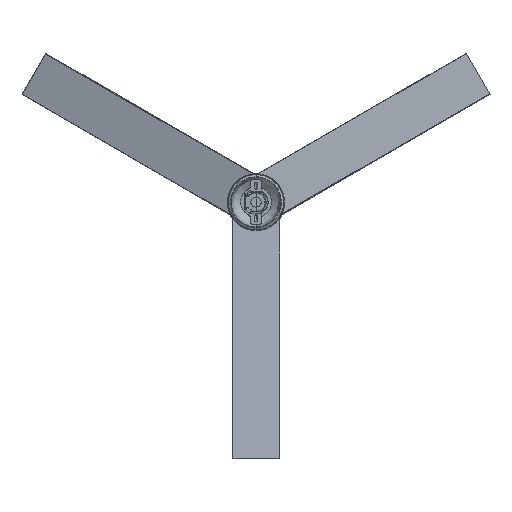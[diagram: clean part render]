
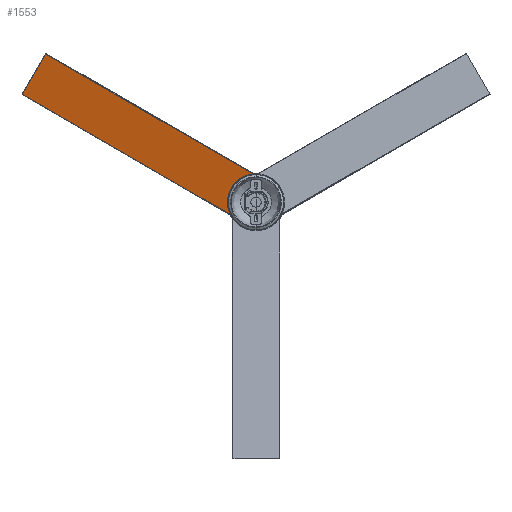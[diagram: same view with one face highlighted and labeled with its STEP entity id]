
A CAD part, top view. The second image highlights one B-rep face of the part: STEP entity #1553.
In plain terms, the highlighted planar face has unit normal (-0.113, -0.195, 0.974).
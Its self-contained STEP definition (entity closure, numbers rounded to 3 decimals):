
#1314=FACE_BOUND('',#2087,.T.);
#1315=FACE_BOUND('',#2088,.T.);
#1316=FACE_BOUND('',#2089,.T.);
#1553=ADVANCED_FACE('',(#1809,#1314,#1315,#1316),#5593,.T.);
#1809=FACE_OUTER_BOUND('',#2086,.T.);
#2086=EDGE_LOOP('',(#3305,#3306,#3307,#3308,#3309,#3310));
#2087=EDGE_LOOP('',(#3311,#3312));
#2088=EDGE_LOOP('',(#3313,#3314));
#2089=EDGE_LOOP('',(#3315,#3316));
#3305=ORIENTED_EDGE('',*,*,#4072,.T.);
#3306=ORIENTED_EDGE('',*,*,#4073,.T.);
#3307=ORIENTED_EDGE('',*,*,#4074,.T.);
#3308=ORIENTED_EDGE('',*,*,#4053,.T.);
#3309=ORIENTED_EDGE('',*,*,#4075,.T.);
#3310=ORIENTED_EDGE('',*,*,#4076,.T.);
#3311=ORIENTED_EDGE('',*,*,#4069,.T.);
#3312=ORIENTED_EDGE('',*,*,#4070,.T.);
#3313=ORIENTED_EDGE('',*,*,#4063,.T.);
#3314=ORIENTED_EDGE('',*,*,#4064,.T.);
#3315=ORIENTED_EDGE('',*,*,#4057,.T.);
#3316=ORIENTED_EDGE('',*,*,#4058,.T.);
#4053=EDGE_CURVE('',#5383,#5385,#4342,.T.);
#4057=EDGE_CURVE('',#5387,#5389,#4344,.T.);
#4058=EDGE_CURVE('',#5389,#5387,#4345,.T.);
#4063=EDGE_CURVE('',#5391,#5393,#4348,.T.);
#4064=EDGE_CURVE('',#5393,#5391,#4349,.T.);
#4069=EDGE_CURVE('',#5395,#5397,#4352,.T.);
#4070=EDGE_CURVE('',#5397,#5395,#4353,.T.);
#4072=EDGE_CURVE('',#5398,#5399,#4981,.T.);
#4073=EDGE_CURVE('',#5399,#5400,#4982,.T.);
#4074=EDGE_CURVE('',#5400,#5383,#4983,.T.);
#4075=EDGE_CURVE('',#5385,#5401,#4984,.T.);
#4076=EDGE_CURVE('',#5401,#5398,#4985,.T.);
#4342=TRIMMED_CURVE($,#4544,(#12520),(#12521),.T.,.CARTESIAN.);
#4344=TRIMMED_CURVE($,#4546,(#12530),(#12531),.T.,.CARTESIAN.);
#4345=TRIMMED_CURVE($,#4547,(#12533),(#12534),.T.,.CARTESIAN.);
#4348=TRIMMED_CURVE($,#4550,(#12546),(#12547),.T.,.CARTESIAN.);
#4349=TRIMMED_CURVE($,#4551,(#12549),(#12550),.T.,.CARTESIAN.);
#4352=TRIMMED_CURVE($,#4554,(#12562),(#12563),.T.,.CARTESIAN.);
#4353=TRIMMED_CURVE($,#4555,(#12565),(#12566),.T.,.CARTESIAN.);
#4544=CIRCLE('',#6157,53.78);
#4546=CIRCLE('',#6159,2.5);
#4547=CIRCLE('',#6160,2.5);
#4550=CIRCLE('',#6163,2.5);
#4551=CIRCLE('',#6164,2.5);
#4554=CIRCLE('',#6167,2.5);
#4555=CIRCLE('',#6168,2.5);
#4981=B_SPLINE_CURVE_WITH_KNOTS('',1,(#12570,#12571),.UNSPECIFIED.,.F.,
 .F.,(2,2),(0.,123.),.UNSPECIFIED.);
#4982=B_SPLINE_CURVE_WITH_KNOTS('',1,(#12572,#12573),.UNSPECIFIED.,.F.,
 .F.,(2,2),(0.,630.),.UNSPECIFIED.);
#4983=B_SPLINE_CURVE_WITH_KNOTS('',1,(#12574,#12575),.UNSPECIFIED.,.F.,
 .F.,(2,2),(0.,16.315),.UNSPECIFIED.);
#4984=B_SPLINE_CURVE_WITH_KNOTS('',1,(#12576,#12577),.UNSPECIFIED.,.F.,
 .F.,(2,2),(0.,14.435),.UNSPECIFIED.);
#4985=B_SPLINE_CURVE_WITH_KNOTS('',1,(#12578,#12579),.UNSPECIFIED.,.F.,
 .F.,(2,2),(0.,630.),.UNSPECIFIED.);
#5383=VERTEX_POINT('',#12481);
#5385=VERTEX_POINT('',#12483);
#5387=VERTEX_POINT('',#12485);
#5389=VERTEX_POINT('',#12487);
#5391=VERTEX_POINT('',#12489);
#5393=VERTEX_POINT('',#12491);
#5395=VERTEX_POINT('',#12493);
#5397=VERTEX_POINT('',#12495);
#5398=VERTEX_POINT('',#12496);
#5399=VERTEX_POINT('',#12497);
#5400=VERTEX_POINT('',#12498);
#5401=VERTEX_POINT('',#12499);
#5593=PLANE('',#6145);
#6145=AXIS2_PLACEMENT_3D('',#12469,#6735,$);
#6157=AXIS2_PLACEMENT_3D($,#12519,#6748,#6749);
#6159=AXIS2_PLACEMENT_3D($,#12529,#6752,#6753);
#6160=AXIS2_PLACEMENT_3D($,#12532,#6754,#6755);
#6163=AXIS2_PLACEMENT_3D($,#12545,#6760,#6761);
#6164=AXIS2_PLACEMENT_3D($,#12548,#6762,#6763);
#6167=AXIS2_PLACEMENT_3D($,#12561,#6768,#6769);
#6168=AXIS2_PLACEMENT_3D($,#12564,#6770,#6771);
#6735=DIRECTION('',(-0.112,-0.195,0.974));
#6748=DIRECTION('',(0.112,0.195,-0.974));
#6749=DIRECTION('',(-0.863,-0.467,-0.193));
#6752=DIRECTION('',(0.112,0.195,-0.974));
#6753=DIRECTION('',(0.487,0.844,0.225));
#6754=DIRECTION('',(0.112,0.195,-0.974));
#6755=DIRECTION('',(-0.487,-0.844,-0.225));
#6760=DIRECTION('',(0.112,0.195,-0.974));
#6761=DIRECTION('',(0.487,0.844,0.225));
#6762=DIRECTION('',(0.112,0.195,-0.974));
#6763=DIRECTION('',(-0.487,-0.844,-0.225));
#6768=DIRECTION('',(0.112,0.195,-0.974));
#6769=DIRECTION('',(0.487,0.844,0.225));
#6770=DIRECTION('',(0.112,0.195,-0.974));
#6771=DIRECTION('',(-0.487,-0.844,-0.225));
#12469=CARTESIAN_POINT('',(-871.905,60.576,-19.706));
#12481=CARTESIAN_POINT('',(-48.248,-23.685,58.525));
#12483=CARTESIAN_POINT('',(-3.305,54.158,79.277));
#12485=CARTESIAN_POINT('',(-16.838,65.29,79.941));
#12487=CARTESIAN_POINT('',(-19.273,61.071,78.816));
#12489=CARTESIAN_POINT('',(-56.483,36.075,69.523));
#12491=CARTESIAN_POINT('',(-58.919,31.856,68.398));
#12493=CARTESIAN_POINT('',(-61.792,-12.818,59.135));
#12495=CARTESIAN_POINT('',(-64.228,-17.038,58.01));
#12496=CARTESIAN_POINT('',(-541.869,381.339,82.524));
#12497=CARTESIAN_POINT('',(-601.792,277.548,54.855));
#12498=CARTESIAN_POINT('',(-56.196,-37.452,54.855));
#12499=CARTESIAN_POINT('',(3.727,66.339,82.524));
#12519=CARTESIAN_POINT('',(-1.827,1.409,68.901));
#12520=CARTESIAN_POINT('',(-48.248,-23.685,58.525));
#12521=CARTESIAN_POINT('',(-3.305,54.158,79.277));
#12529=CARTESIAN_POINT('',(-18.055,63.18,79.378));
#12530=CARTESIAN_POINT('',(-16.838,65.29,79.941));
#12531=CARTESIAN_POINT('',(-19.273,61.071,78.816));
#12532=CARTESIAN_POINT('',(-18.055,63.18,79.378));
#12533=CARTESIAN_POINT('',(-19.273,61.071,78.816));
#12534=CARTESIAN_POINT('',(-16.838,65.29,79.941));
#12545=CARTESIAN_POINT('',(-57.701,33.966,68.961));
#12546=CARTESIAN_POINT('',(-56.483,36.075,69.523));
#12547=CARTESIAN_POINT('',(-58.919,31.856,68.398));
#12548=CARTESIAN_POINT('',(-57.701,33.966,68.961));
#12549=CARTESIAN_POINT('',(-58.919,31.856,68.398));
#12550=CARTESIAN_POINT('',(-56.483,36.075,69.523));
#12561=CARTESIAN_POINT('',(-63.01,-14.928,58.572));
#12562=CARTESIAN_POINT('',(-61.792,-12.818,59.135));
#12563=CARTESIAN_POINT('',(-64.228,-17.038,58.01));
#12564=CARTESIAN_POINT('',(-63.01,-14.928,58.572));
#12565=CARTESIAN_POINT('',(-64.228,-17.038,58.01));
#12566=CARTESIAN_POINT('',(-61.792,-12.818,59.135));
#12570=CARTESIAN_POINT('',(-541.869,381.339,82.524));
#12571=CARTESIAN_POINT('',(-601.792,277.548,54.855));
#12572=CARTESIAN_POINT('',(-601.792,277.548,54.855));
#12573=CARTESIAN_POINT('',(-56.196,-37.452,54.855));
#12574=CARTESIAN_POINT('',(-56.196,-37.452,54.855));
#12575=CARTESIAN_POINT('',(-48.248,-23.685,58.525));
#12576=CARTESIAN_POINT('',(-3.305,54.158,79.277));
#12577=CARTESIAN_POINT('',(3.727,66.339,82.524));
#12578=CARTESIAN_POINT('',(3.727,66.339,82.524));
#12579=CARTESIAN_POINT('',(-541.869,381.339,82.524));
